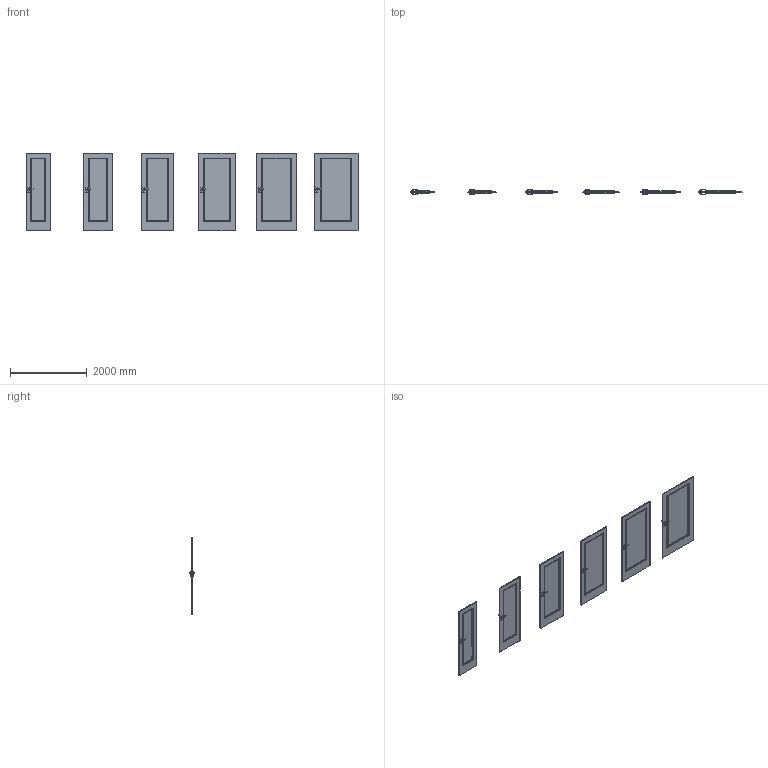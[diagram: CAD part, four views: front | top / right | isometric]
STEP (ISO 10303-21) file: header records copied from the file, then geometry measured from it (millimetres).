
FILE_DESCRIPTION(/* description */ (''),/* implementation_level */ '2;1');
FILE_NAME(/* name */ '049715_A_2-Skrzydło CPL model 1.4_ polska norma _PN__ przylgowe..stp',/* time_stamp */ '2024-02-16T08:47:13+01:00',/* author */ (''),/* organization */ (''),/* preprocessor_version */ 'ST-DEVELOPER v16',/* originating_system */ 'SIEMENS PLM Software NX 11.0',/* authorisation */ '');
FILE_SCHEMA (('AUTOMOTIVE_DESIGN { 1 0 10303 214 3 1 1 1 }'));
Products named in the file (1): bkni4C70E1ECxu0q
Bounding box: 8644 x 153.27 x 2030 mm (x, y, z)
Volume: 264092514.6 mm3; surface area: 51896134.9 mm2
Topology: 217 solids, 217 shells, 4033 faces, 10269 edges, 6550 vertices
Faces by surface type: plane 2395, bspline 1182, cylinder 288, sphere 168
Entity records: 138016 total; most frequent: CARTESIAN_POINT 49446, ORIENTED_EDGE 20202, DIRECTION 14364, EDGE_CURVE 10101, LINE 6860, VECTOR 6860, VERTEX_POINT 6550, EDGE_LOOP 4117
